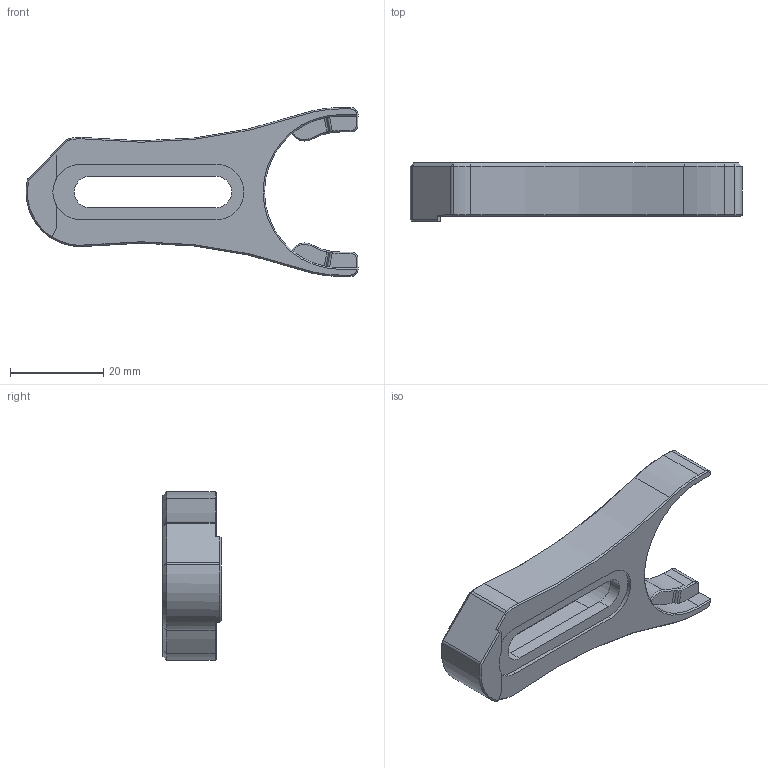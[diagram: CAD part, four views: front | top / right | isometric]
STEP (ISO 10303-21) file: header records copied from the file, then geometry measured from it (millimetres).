
FILE_DESCRIPTION((''),'2;1');
FILE_NAME('M-BASE-C','2020-10-21T',('Administrator'),(''),'CREO PARAMETRIC BY PTC INC, 2015290','CREO PARAMETRIC BY PTC INC, 2015290','');
FILE_SCHEMA(('CONFIG_CONTROL_DESIGN'));
Length unit declared in the file: millimetre
Products named in the file (1): M-BASE-C
Bounding box: 71.31 x 12.5 x 36.29 mm (x, y, z)
Volume: 10197.3 mm3; surface area: 5793.1 mm2
Topology: 1 solids, 1 shells, 323 faces, 860 edges, 551 vertices
Faces by surface type: plane 247, cone 40, cylinder 29, bspline 7
Entity records: 10151 total; most frequent: CARTESIAN_POINT 2096, ORIENTED_EDGE 1720, DIRECTION 1556, EDGE_CURVE 860, VECTOR 728, LINE 728, VERTEX_POINT 551, AXIS2_PLACEMENT_3D 414
